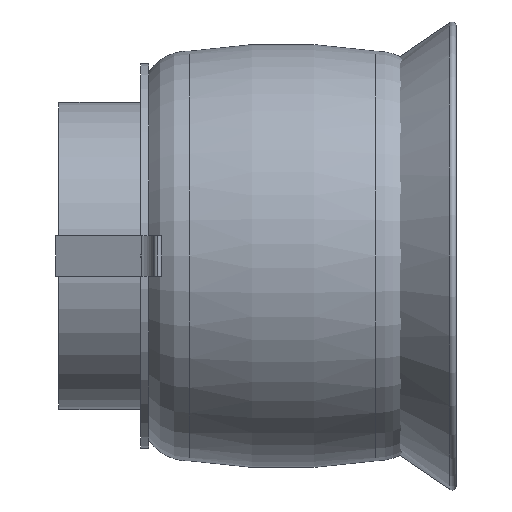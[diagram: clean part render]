
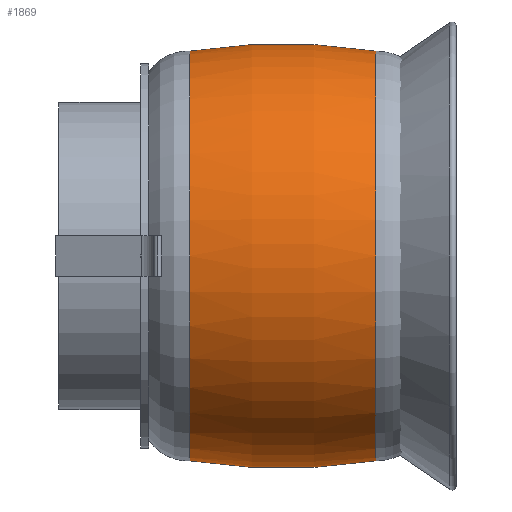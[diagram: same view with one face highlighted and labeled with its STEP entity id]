
A CAD part, left-side view. The second image highlights one B-rep face of the part: STEP entity #1869.
In plain terms, the highlighted toroidal (fillet/blend) face has major radius 93.994 mm and minor radius 145.772 mm.
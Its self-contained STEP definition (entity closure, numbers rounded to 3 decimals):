
#39 = CARTESIAN_POINT ( 'NONE',  ( 0., 55., 0. ) ) ;
#58 = TOROIDAL_SURFACE ( 'NONE', #1980, -93.994, 145.772 ) ;
#101 = CARTESIAN_POINT ( 'NONE',  ( 0., 55., 50. ) ) ;
#112 = VERTEX_POINT ( 'NONE', #101 ) ;
#133 = CIRCLE ( 'NONE', #1771, 50. ) ;
#152 = ORIENTED_EDGE ( 'NONE', *, *, #1979, .T. ) ;
#156 = AXIS2_PLACEMENT_3D ( 'NONE', #348, #1494, #630 ) ;
#297 = CIRCLE ( 'NONE', #1331, 145.772 ) ;
#348 = CARTESIAN_POINT ( 'NONE',  ( 0., 9.606, 0. ) ) ;
#386 = DIRECTION ( 'NONE',  ( 0., 0., -1. ) ) ;
#410 = EDGE_CURVE ( 'NONE', #1382, #726, #907, .T. ) ;
#439 = CARTESIAN_POINT ( 'NONE',  ( 0., 9.606, -50. ) ) ;
#566 = DIRECTION ( 'NONE',  ( -1., 0., 0. ) ) ;
#630 = DIRECTION ( 'NONE',  ( 0., 0., 1. ) ) ;
#637 = ORIENTED_EDGE ( 'NONE', *, *, #1653, .F. ) ;
#726 = VERTEX_POINT ( 'NONE', #1969 ) ;
#733 = DIRECTION ( 'NONE',  ( 0., 0., 1. ) ) ;
#753 = CARTESIAN_POINT ( 'NONE',  ( 0., 32.303, -93.994 ) ) ;
#787 = AXIS2_PLACEMENT_3D ( 'NONE', #753, #566, #733 ) ;
#848 = DIRECTION ( 'NONE',  ( 0., 1., 0. ) ) ;
#882 = EDGE_LOOP ( 'NONE', ( #918, #1733, #152, #637 ) ) ;
#907 = CIRCLE ( 'NONE', #156, 50. ) ;
#918 = ORIENTED_EDGE ( 'NONE', *, *, #1708, .F. ) ;
#1056 = CIRCLE ( 'NONE', #787, 145.772 ) ;
#1194 = DIRECTION ( 'NONE',  ( 0., 0., 1. ) ) ;
#1237 = DIRECTION ( 'NONE',  ( 0., 0., 1. ) ) ;
#1331 = AXIS2_PLACEMENT_3D ( 'NONE', #1525, #1365, #386 ) ;
#1365 = DIRECTION ( 'NONE',  ( 1., 0., 0. ) ) ;
#1382 = VERTEX_POINT ( 'NONE', #439 ) ;
#1398 = CARTESIAN_POINT ( 'NONE',  ( 0., 55., -50. ) ) ;
#1494 = DIRECTION ( 'NONE',  ( 0., 1., 0. ) ) ;
#1525 = CARTESIAN_POINT ( 'NONE',  ( 0., 32.303, 93.994 ) ) ;
#1653 = EDGE_CURVE ( 'NONE', #1770, #112, #133, .T. ) ;
#1697 = DIRECTION ( 'NONE',  ( 0., 1., 0. ) ) ;
#1708 = EDGE_CURVE ( 'NONE', #1382, #1770, #297, .T. ) ;
#1733 = ORIENTED_EDGE ( 'NONE', *, *, #410, .T. ) ;
#1770 = VERTEX_POINT ( 'NONE', #1398 ) ;
#1771 = AXIS2_PLACEMENT_3D ( 'NONE', #39, #848, #1194 ) ;
#1869 = ADVANCED_FACE ( 'NONE', ( #1891 ), #58, .T. ) ;
#1884 = CARTESIAN_POINT ( 'NONE',  ( 0., 32.303, 0. ) ) ;
#1891 = FACE_OUTER_BOUND ( 'NONE', #882, .T. ) ;
#1969 = CARTESIAN_POINT ( 'NONE',  ( 0., 9.606, 50. ) ) ;
#1979 = EDGE_CURVE ( 'NONE', #726, #112, #1056, .T. ) ;
#1980 = AXIS2_PLACEMENT_3D ( 'NONE', #1884, #1697, #1237 ) ;
